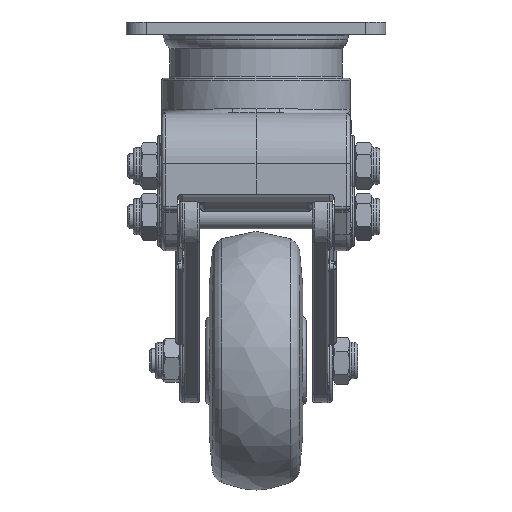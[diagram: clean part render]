
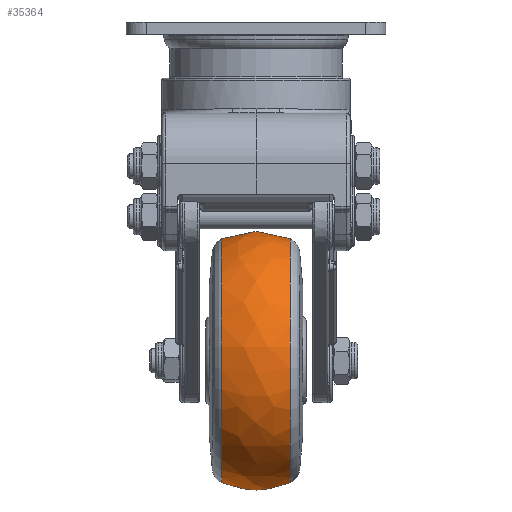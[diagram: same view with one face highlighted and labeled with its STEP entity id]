
A CAD part, left-side view. The second image highlights one B-rep face of the part: STEP entity #35364.
In plain terms, the highlighted free-form (B-spline) face has degree [2, 2] with [3, 9] control points.
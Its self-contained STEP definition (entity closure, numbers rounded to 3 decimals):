
#192=(
BOUNDED_SURFACE()
B_SPLINE_SURFACE(2,2,((#52178,#52179,#52180,#52181,#52182,#52183,#52184,
#52185,#52186),(#52187,#52188,#52189,#52190,#52191,#52192,#52193,#52194,
#52195),(#52196,#52197,#52198,#52199,#52200,#52201,#52202,#52203,#52204)),
 .UNSPECIFIED.,.F.,.T.,.F.)
B_SPLINE_SURFACE_WITH_KNOTS((3,3),(3,2,2,2,3),(-0.438,0.438),
(-3.142,-1.571,0.,1.571,3.142),
 .UNSPECIFIED.)
GEOMETRIC_REPRESENTATION_ITEM()
RATIONAL_B_SPLINE_SURFACE(((1.,0.707,1.,0.707,1.,
0.707,1.,0.707,1.),(0.906,0.64,
0.906,0.64,0.906,0.64,
0.906,0.64,0.906),(1.,0.707,
1.,0.707,1.,0.707,1.,0.707,1.)))
REPRESENTATION_ITEM('')
SURFACE()
);
#3984=FACE_OUTER_BOUND('',#6024,.T.);
#6024=EDGE_LOOP('',(#24806,#24807,#24808,#24809,#24810,#24811));
#13001=CIRCLE('',#37504,30.112);
#13002=CIRCLE('',#37505,30.112);
#13003=CIRCLE('',#37506,20.);
#13004=CIRCLE('',#37507,30.112);
#13005=CIRCLE('',#37508,30.112);
#14747=VERTEX_POINT('',#52205);
#14748=VERTEX_POINT('',#52206);
#14749=VERTEX_POINT('',#52209);
#14750=VERTEX_POINT('',#52211);
#18493=EDGE_CURVE('',#14747,#14748,#13001,.T.);
#18494=EDGE_CURVE('',#14748,#14747,#13002,.T.);
#18495=EDGE_CURVE('',#14748,#14749,#13003,.T.);
#18496=EDGE_CURVE('',#14749,#14750,#13004,.T.);
#18497=EDGE_CURVE('',#14750,#14749,#13005,.T.);
#24806=ORIENTED_EDGE('',*,*,#18493,.F.);
#24807=ORIENTED_EDGE('',*,*,#18494,.F.);
#24808=ORIENTED_EDGE('',*,*,#18495,.T.);
#24809=ORIENTED_EDGE('',*,*,#18496,.T.);
#24810=ORIENTED_EDGE('',*,*,#18497,.T.);
#24811=ORIENTED_EDGE('',*,*,#18495,.F.);
#35364=ADVANCED_FACE('',(#3984),#192,.F.);
#37504=AXIS2_PLACEMENT_3D('',#52207,#41331,#41332);
#37505=AXIS2_PLACEMENT_3D('',#52208,#41333,#41334);
#37506=AXIS2_PLACEMENT_3D('',#52210,#41335,#41336);
#37507=AXIS2_PLACEMENT_3D('',#52212,#41337,#41338);
#37508=AXIS2_PLACEMENT_3D('',#52213,#41339,#41340);
#41331=DIRECTION('center_axis',(0.,-1.,0.));
#41332=DIRECTION('ref_axis',(-0.282,0.,-0.959));
#41333=DIRECTION('center_axis',(0.,-1.,0.));
#41334=DIRECTION('ref_axis',(-0.282,0.,-0.959));
#41335=DIRECTION('center_axis',(-0.959,0.,
0.282));
#41336=DIRECTION('ref_axis',(0.282,0.,0.959));
#41337=DIRECTION('center_axis',(0.,-1.,0.));
#41338=DIRECTION('ref_axis',(-0.282,0.,-0.959));
#41339=DIRECTION('center_axis',(0.,-1.,0.));
#41340=DIRECTION('ref_axis',(-0.282,0.,-0.959));
#52178=CARTESIAN_POINT('Ctrl Pts',(71.878,8.482,-14.325));
#52179=CARTESIAN_POINT('Ctrl Pts',(42.987,8.482,-5.836));
#52180=CARTESIAN_POINT('Ctrl Pts',(34.499,8.482,-34.728));
#52181=CARTESIAN_POINT('Ctrl Pts',(26.01,8.482,-63.619));
#52182=CARTESIAN_POINT('Ctrl Pts',(54.902,8.482,-72.107));
#52183=CARTESIAN_POINT('Ctrl Pts',(83.793,8.482,-80.595));
#52184=CARTESIAN_POINT('Ctrl Pts',(92.281,8.482,-51.704));
#52185=CARTESIAN_POINT('Ctrl Pts',(100.769,8.482,-22.813));
#52186=CARTESIAN_POINT('Ctrl Pts',(71.878,8.482,-14.325));
#52187=CARTESIAN_POINT('Ctrl Pts',(72.998,0.,
-10.513));
#52188=CARTESIAN_POINT('Ctrl Pts',(40.295,0.,
-0.906));
#52189=CARTESIAN_POINT('Ctrl Pts',(30.687,0.,
-33.608));
#52190=CARTESIAN_POINT('Ctrl Pts',(21.08,0.,
-66.31));
#52191=CARTESIAN_POINT('Ctrl Pts',(53.782,0.,
-75.918));
#52192=CARTESIAN_POINT('Ctrl Pts',(86.484,0.,
-85.526));
#52193=CARTESIAN_POINT('Ctrl Pts',(96.092,0.,
-52.824));
#52194=CARTESIAN_POINT('Ctrl Pts',(105.7,0.,
-20.121));
#52195=CARTESIAN_POINT('Ctrl Pts',(72.998,0.,
-10.513));
#52196=CARTESIAN_POINT('Ctrl Pts',(71.878,-8.482,-14.325));
#52197=CARTESIAN_POINT('Ctrl Pts',(42.987,-8.482,-5.836));
#52198=CARTESIAN_POINT('Ctrl Pts',(34.499,-8.482,-34.728));
#52199=CARTESIAN_POINT('Ctrl Pts',(26.01,-8.482,-63.619));
#52200=CARTESIAN_POINT('Ctrl Pts',(54.902,-8.482,-72.107));
#52201=CARTESIAN_POINT('Ctrl Pts',(83.793,-8.482,-80.595));
#52202=CARTESIAN_POINT('Ctrl Pts',(92.281,-8.482,-51.704));
#52203=CARTESIAN_POINT('Ctrl Pts',(100.769,-8.482,-22.813));
#52204=CARTESIAN_POINT('Ctrl Pts',(71.878,-8.482,-14.325));
#52205=CARTESIAN_POINT('',(54.902,-8.482,-72.107));
#52206=CARTESIAN_POINT('',(71.878,-8.482,-14.325));
#52207=CARTESIAN_POINT('Origin',(63.39,-8.482,-43.216));
#52208=CARTESIAN_POINT('Origin',(63.39,-8.482,-43.216));
#52209=CARTESIAN_POINT('',(71.878,8.482,-14.325));
#52210=CARTESIAN_POINT('Origin',(66.772,0.,
-31.702));
#52211=CARTESIAN_POINT('',(54.902,8.482,-72.107));
#52212=CARTESIAN_POINT('Origin',(63.39,8.482,-43.216));
#52213=CARTESIAN_POINT('Origin',(63.39,8.482,-43.216));
